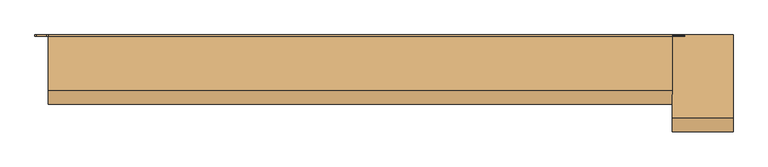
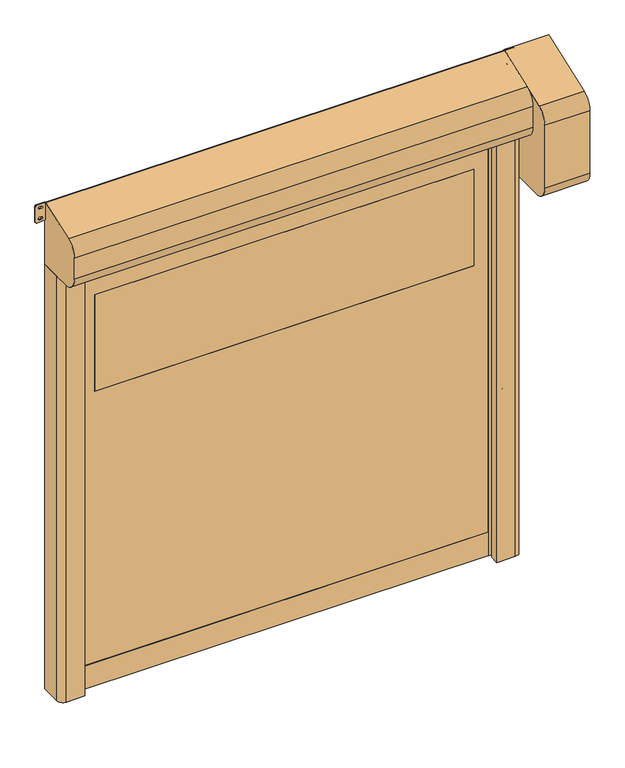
"""IFC4 building model written with IfcOpenShell, lengths in millimetres: door geometry, DO_WPB_Dynadry_BMP : Dynadry."""

from ifc_helpers import new_model, si_unit, point, frame, frame_2d, origin, origin_with_axes, place, context, project, spatial, polyline, circle_curve, trimmed, segment, composite_curve, outline, extrude, source, transform, mapped, element, save


def door_dcf74658(model_context):
    return source(origin(), model_context, "Body", "SweptSolid", [
        extrude(outline(composite_curve([segment(trimmed(circle_curve(frame_2d((1416.6666667, 1084.5)), 6.0), [point((1422.6666667, 1084.5))], [point((1410.6666667, 1084.5))], False, "CARTESIAN"), True, "CONTINUOUS"), segment(polyline([(1410.6666667, 1084.5), (1410.6666667, 1102.5)]), True, "CONTINUOUS"), segment(trimmed(circle_curve(frame_2d((1416.6666667, 1102.5)), 6.0), [point((1410.6666667, 1102.5))], [point((1422.6666667, 1102.5))], False, "CARTESIAN"), True, "CONTINUOUS"), segment(polyline([(1422.6666667, 1102.5), (1422.6666667, 1084.5)]), True, "CONTINUOUS")], self_intersect=False)), frame((0.0, -20.0, 0.0), z_axis=(0.0, 1.0, 0.0), x_axis=(0.0, 0.0, 1.0)), (0.0, 0.0, 1.0), 20.0),
        extrude(outline(composite_curve([segment(trimmed(circle_curve(frame_2d((783.3333333, 1084.5)), 6.0), [point((789.3333333, 1084.5))], [point((777.3333333, 1084.5))], False, "CARTESIAN"), True, "CONTINUOUS"), segment(polyline([(777.3333333, 1084.5), (777.3333333, 1102.5)]), True, "CONTINUOUS"), segment(trimmed(circle_curve(frame_2d((783.3333333, 1102.5)), 6.0), [point((777.3333333, 1102.5))], [point((789.3333333, 1102.5))], False, "CARTESIAN"), True, "CONTINUOUS"), segment(polyline([(789.3333333, 1102.5), (789.3333333, 1084.5)]), True, "CONTINUOUS")], self_intersect=False)), frame((0.0, -20.0, 0.0), z_axis=(0.0, 1.0, 0.0), x_axis=(0.0, 0.0, 1.0)), (0.0, 0.0, 1.0), 20.0),
        extrude(outline(composite_curve([segment(trimmed(circle_curve(frame_2d((2050.0, 1084.5)), 6.0), [point((2056.0, 1084.5))], [point((2044.0, 1084.5))], False, "CARTESIAN"), True, "CONTINUOUS"), segment(polyline([(2044.0, 1084.5), (2044.0, 1102.5)]), True, "CONTINUOUS"), segment(trimmed(circle_curve(frame_2d((2050.0, 1102.5)), 6.0), [point((2044.0, 1102.5))], [point((2056.0, 1102.5))], False, "CARTESIAN"), True, "CONTINUOUS"), segment(polyline([(2056.0, 1102.5), (2056.0, 1084.5)]), True, "CONTINUOUS")], self_intersect=False)), frame((0.0, -20.0, 0.0), z_axis=(0.0, 1.0, 0.0), x_axis=(0.0, 0.0, 1.0)), (0.0, 0.0, 1.0), 20.0),
        extrude(outline(composite_curve([segment(trimmed(circle_curve(frame_2d((150.0, 1084.5)), 6.0), [point((156.0, 1084.5))], [point((144.0, 1084.5))], False, "CARTESIAN"), True, "CONTINUOUS"), segment(polyline([(144.0, 1084.5), (144.0, 1102.5)]), True, "CONTINUOUS"), segment(trimmed(circle_curve(frame_2d((150.0, 1102.5)), 6.0), [point((144.0, 1102.5))], [point((156.0, 1102.5))], False, "CARTESIAN"), True, "CONTINUOUS"), segment(polyline([(156.0, 1102.5), (156.0, 1084.5)]), True, "CONTINUOUS")], self_intersect=False)), frame((0.0, -20.0, 0.0), z_axis=(0.0, 1.0, 0.0), x_axis=(0.0, 0.0, 1.0)), (0.0, 0.0, 1.0), 20.0),
        extrude(outline(composite_curve([segment(polyline([(1422.6666667, -1084.5), (1422.6666667, -1102.5)]), True, "CONTINUOUS"), segment(trimmed(circle_curve(frame_2d((1416.6666667, -1102.5)), 6.0), [point((1422.6666667, -1102.5))], [point((1410.6666667, -1102.5))], False, "CARTESIAN"), True, "CONTINUOUS"), segment(polyline([(1410.6666667, -1102.5), (1410.6666667, -1084.5)]), True, "CONTINUOUS"), segment(trimmed(circle_curve(frame_2d((1416.6666667, -1084.5)), 6.0), [point((1410.6666667, -1084.5))], [point((1422.6666667, -1084.5))], False, "CARTESIAN"), True, "CONTINUOUS")], self_intersect=False)), frame((0.0, -20.0, 0.0), z_axis=(0.0, 1.0, 0.0), x_axis=(0.0, 0.0, 1.0)), (0.0, 0.0, 1.0), 20.0),
        extrude(outline(composite_curve([segment(polyline([(789.3333333, -1084.5), (789.3333333, -1102.5)]), True, "CONTINUOUS"), segment(trimmed(circle_curve(frame_2d((783.3333333, -1102.5)), 6.0), [point((789.3333333, -1102.5))], [point((777.3333333, -1102.5))], False, "CARTESIAN"), True, "CONTINUOUS"), segment(polyline([(777.3333333, -1102.5), (777.3333333, -1084.5)]), True, "CONTINUOUS"), segment(trimmed(circle_curve(frame_2d((783.3333333, -1084.5)), 6.0), [point((777.3333333, -1084.5))], [point((789.3333333, -1084.5))], False, "CARTESIAN"), True, "CONTINUOUS")], self_intersect=False)), frame((0.0, -20.0, 0.0), z_axis=(0.0, 1.0, 0.0), x_axis=(0.0, 0.0, 1.0)), (0.0, 0.0, 1.0), 20.0),
        extrude(outline(composite_curve([segment(polyline([(2056.0, -1084.5), (2056.0, -1102.5)]), True, "CONTINUOUS"), segment(trimmed(circle_curve(frame_2d((2050.0, -1102.5)), 6.0), [point((2056.0, -1102.5))], [point((2044.0, -1102.5))], False, "CARTESIAN"), True, "CONTINUOUS"), segment(polyline([(2044.0, -1102.5), (2044.0, -1084.5)]), True, "CONTINUOUS"), segment(trimmed(circle_curve(frame_2d((2050.0, -1084.5)), 6.0), [point((2044.0, -1084.5))], [point((2056.0, -1084.5))], False, "CARTESIAN"), True, "CONTINUOUS")], self_intersect=False)), frame((0.0, -20.0, 0.0), z_axis=(0.0, 1.0, 0.0), x_axis=(0.0, 0.0, 1.0)), (0.0, 0.0, 1.0), 20.0),
        extrude(outline(composite_curve([segment(polyline([(156.0, -1084.5), (156.0, -1102.5)]), True, "CONTINUOUS"), segment(trimmed(circle_curve(frame_2d((150.0, -1102.5)), 6.0), [point((156.0, -1102.5))], [point((144.0, -1102.5))], False, "CARTESIAN"), True, "CONTINUOUS"), segment(polyline([(144.0, -1102.5), (144.0, -1084.5)]), True, "CONTINUOUS"), segment(trimmed(circle_curve(frame_2d((150.0, -1084.5)), 6.0), [point((144.0, -1084.5))], [point((156.0, -1084.5))], False, "CARTESIAN"), True, "CONTINUOUS")], self_intersect=False)), frame((0.0, -20.0, 0.0), z_axis=(0.0, 1.0, 0.0), x_axis=(0.0, 0.0, 1.0)), (0.0, 0.0, 1.0), 20.0),
        extrude(outline(composite_curve([segment(trimmed(circle_curve(frame_2d((1526.0, 929.0)), 1.0), [point((1525.0, 929.0))], [point((1526.0, 930.0))], False, "CARTESIAN"), True, "CONTINUOUS"), segment(polyline([(1526.0, 930.0), (2024.0, 930.0)]), True, "CONTINUOUS"), segment(trimmed(circle_curve(frame_2d((2024.0, 929.0)), 1.0), [point((2024.0, 930.0))], [point((2025.0, 929.0))], False, "CARTESIAN"), True, "CONTINUOUS"), segment(polyline([(2025.0, 929.0), (2025.0, -929.0)]), True, "CONTINUOUS"), segment(trimmed(circle_curve(frame_2d((2024.0, -929.0)), 1.0), [point((2025.0, -929.0))], [point((2024.0, -930.0))], False, "CARTESIAN"), True, "CONTINUOUS"), segment(polyline([(2024.0, -930.0), (1526.0, -930.0)]), True, "CONTINUOUS"), segment(trimmed(circle_curve(frame_2d((1526.0, -929.0)), 1.0), [point((1526.0, -930.0))], [point((1525.0, -929.0))], False, "CARTESIAN"), True, "CONTINUOUS"), segment(polyline([(1525.0, -929.0), (1525.0, 929.0)]), True, "CONTINUOUS")], self_intersect=False)), frame((0.0, -83.5, 0.0), z_axis=(0.0, 1.0, 0.0), x_axis=(0.0, 0.0, 1.0)), (0.0, 0.0, 1.0), 7.0),
        extrude(outline(polyline([(120.0, -1012.0), (120.0, 1012.0), (2362.5, 1012.0), (2362.5, -1012.0), (120.0, -1012.0)]), holes=[composite_curve([segment(trimmed(circle_curve(frame_2d((1526.0, 929.0)), 1.0), [point((1526.0, 930.0))], [point((1525.0, 929.0))], True, "CARTESIAN"), True, "CONTINUOUS"), segment(polyline([(1525.0, 929.0), (1525.0, -929.0)]), True, "CONTINUOUS"), segment(trimmed(circle_curve(frame_2d((1526.0, -929.0)), 1.0), [point((1525.0, -929.0))], [point((1526.0, -930.0))], True, "CARTESIAN"), True, "CONTINUOUS"), segment(polyline([(1526.0, -930.0), (2024.0, -930.0)]), True, "CONTINUOUS"), segment(trimmed(circle_curve(frame_2d((2024.0, -929.0)), 1.0), [point((2024.0, -930.0))], [point((2025.0, -929.0))], True, "CARTESIAN"), True, "CONTINUOUS"), segment(polyline([(2025.0, -929.0), (2025.0, 929.0)]), True, "CONTINUOUS"), segment(trimmed(circle_curve(frame_2d((2024.0, 929.0)), 1.0), [point((2025.0, 929.0))], [point((2024.0, 930.0))], True, "CARTESIAN"), True, "CONTINUOUS"), segment(polyline([(2024.0, 930.0), (1526.0, 930.0)]), True, "CONTINUOUS")], self_intersect=False)]), frame((0.0, -83.5, 0.0), z_axis=(0.0, 1.0, 0.0), x_axis=(0.0, 0.0, 1.0)), (0.0, 0.0, 1.0), 7.0),
        extrude(outline(polyline([(-1012.0, -74.5), (1012.0, -74.5), (1012.0, -85.5), (-1012.0, -85.5), (-1012.0, -74.5)])), origin_with_axes(), (0.0, 0.0, 1.0), 120.0),
        extrude(outline(composite_curve([segment(polyline([(-1125.0, 0.0), (-1015.0, 0.0), (-1015.0, -64.2857143), (-1035.0, -70.0), (-1000.0, -70.0), (-1000.0, -76.5), (-1020.0, -76.5), (-1020.0, -83.5), (-1000.0, -83.5), (-1000.0, -90.0), (-1035.0, -90.0), (-1035.0, -105.0), (-1005.0, -105.0), (-1005.0, -130.0), (-1095.0, -130.0)]), True, "CONTINUOUS"), segment(trimmed(circle_curve(frame_2d((-1095.0, -100.0)), 30.0), [point((-1095.0, -130.0))], [point((-1125.0, -100.0))], False, "CARTESIAN"), True, "CONTINUOUS"), segment(polyline([(-1125.0, -100.0), (-1125.0, 0.0)]), True, "CONTINUOUS")], self_intersect=False)), origin_with_axes(), (0.0, 0.0, 1.0), 2200.0),
        extrude(outline(composite_curve([segment(polyline([(1125.0, 0.0), (1125.0, -120.0)]), True, "CONTINUOUS"), segment(trimmed(circle_curve(frame_2d((1095.0, -120.0)), 30.0), [point((1125.0, -120.0))], [point((1095.0, -150.0))], False, "CARTESIAN"), True, "CONTINUOUS"), segment(polyline([(1095.0, -150.0), (1005.0, -150.0), (1005.0, -105.0), (1035.0, -105.0), (1035.0, -90.0), (1000.0, -90.0), (1000.0, -83.5), (1020.0, -83.5), (1020.0, -76.5), (1000.0, -76.5), (1000.0, -70.0), (1035.0, -70.0), (1015.0, -64.2857143), (1015.0, 0.0), (1125.0, 0.0)]), True, "CONTINUOUS")], self_intersect=False)), origin_with_axes(), (0.0, 0.0, 1.0), 2200.0),
        extrude(outline(composite_curve([segment(polyline([(0.0, 2525.0), (0.0, 1945.0), (-275.0, 1945.0)]), True, "CONTINUOUS"), segment(trimmed(circle_curve(frame_2d((-275.0, 2020.0)), 75.0), [point((-275.0, 1945.0))], [point((-350.0, 2020.0))], False, "CARTESIAN"), True, "CONTINUOUS"), segment(polyline([(-350.0, 2020.0), (-350.0, 2345.0948526)]), True, "CONTINUOUS"), segment(trimmed(circle_curve(frame_2d((-275.0, 2345.0948526)), 75.0), [point((-350.0, 2345.0948526))], [point((-300.6515107, 2415.5717992))], False, "CARTESIAN"), True, "CONTINUOUS"), segment(polyline([(-300.6515107, 2415.5717992), (0.0, 2525.0)]), True, "CONTINUOUS")], self_intersect=False)), frame((1125.0, 0.0, 0.0), z_axis=(1.0, 0.0, 0.0), x_axis=(0.0, 1.0, 0.0)), (0.0, 0.0, 1.0), 220.0),
        extrude(outline(composite_curve([segment(trimmed(circle_curve(frame_2d((-5.0, 2205.0)), 5.0), [point((0.0, 2205.0))], [point((-5.0, 2200.0))], False, "CARTESIAN"), True, "CONTINUOUS"), segment(polyline([(-5.0, 2200.0), (-175.0, 2200.0)]), True, "CONTINUOUS"), segment(trimmed(circle_curve(frame_2d((-175.0, 2275.0)), 75.0), [point((-175.0, 2200.0))], [point((-250.0, 2275.0))], False, "CARTESIAN"), True, "CONTINUOUS"), segment(polyline([(-250.0, 2275.0), (-250.0, 2383.934153)]), True, "CONTINUOUS"), segment(trimmed(circle_curve(frame_2d((-175.0, 2383.934153)), 75.0), [point((-250.0, 2383.934153))], [point((-200.6515107, 2454.4110996))], False, "CARTESIAN"), True, "CONTINUOUS"), segment(polyline([(-200.6515107, 2454.4110996), (-6.7101007, 2525.0)]), True, "CONTINUOUS"), segment(trimmed(circle_curve(frame_2d((-5.0, 2520.3015369)), 5.0), [point((-6.7101007, 2525.0))], [point((0.0, 2520.3015369))], False, "CARTESIAN"), True, "CONTINUOUS"), segment(polyline([(0.0, 2520.3015369), (0.0, 2205.0)]), True, "CONTINUOUS")], self_intersect=False)), frame((-1125.0, 0.0, 0.0), z_axis=(1.0, 0.0, 0.0), x_axis=(0.0, 1.0, 0.0)), (0.0, 0.0, 1.0), 2250.0),
        extrude(outline(composite_curve([segment(trimmed(circle_curve(frame_2d((2438.75, 1130.75)), 5.75), [point((2438.75, 1125.0))], [point((2433.0, 1130.75))], False, "CARTESIAN"), True, "CONTINUOUS"), segment(polyline([(2433.0, 1130.75), (2433.0, 1168.25)]), True, "CONTINUOUS"), segment(trimmed(circle_curve(frame_2d((2438.75, 1168.25)), 5.75), [point((2433.0, 1168.25))], [point((2438.75, 1174.0))], False, "CARTESIAN"), True, "CONTINUOUS"), segment(polyline([(2438.75, 1174.0), (2519.25, 1174.0)]), True, "CONTINUOUS"), segment(trimmed(circle_curve(frame_2d((2519.25, 1168.25)), 5.75), [point((2519.25, 1174.0))], [point((2525.0, 1168.25))], False, "CARTESIAN"), True, "CONTINUOUS"), segment(polyline([(2525.0, 1168.25), (2525.0, 1130.75)]), True, "CONTINUOUS"), segment(trimmed(circle_curve(frame_2d((2519.25, 1130.75)), 5.75), [point((2525.0, 1130.75))], [point((2519.25, 1125.0))], False, "CARTESIAN"), True, "CONTINUOUS"), segment(polyline([(2519.25, 1125.0), (2438.75, 1125.0)]), True, "CONTINUOUS")], self_intersect=False), holes=[composite_curve([segment(trimmed(circle_curve(frame_2d((2451.5, 1153.75)), 5.75), [point((2457.25, 1153.75))], [point((2445.75, 1153.75))], True, "CARTESIAN"), True, "CONTINUOUS"), segment(polyline([(2445.75, 1153.75), (2445.75, 1145.25)]), True, "CONTINUOUS"), segment(trimmed(circle_curve(frame_2d((2451.5, 1145.25)), 5.75), [point((2445.75, 1145.25))], [point((2457.25, 1145.25))], True, "CARTESIAN"), True, "CONTINUOUS"), segment(polyline([(2457.25, 1145.25), (2457.25, 1153.75)]), True, "CONTINUOUS")], self_intersect=False), composite_curve([segment(trimmed(circle_curve(frame_2d((2506.5, 1153.75)), 5.75), [point((2512.25, 1153.75))], [point((2500.75, 1153.75))], True, "CARTESIAN"), True, "CONTINUOUS"), segment(polyline([(2500.75, 1153.75), (2500.75, 1145.25)]), True, "CONTINUOUS"), segment(trimmed(circle_curve(frame_2d((2506.5, 1145.25)), 5.75), [point((2500.75, 1145.25))], [point((2512.25, 1145.25))], True, "CARTESIAN"), True, "CONTINUOUS"), segment(polyline([(2512.25, 1145.25), (2512.25, 1153.75)]), True, "CONTINUOUS")], self_intersect=False)]), frame((0.0, -5.0, 0.0), z_axis=(0.0, 1.0, 0.0), x_axis=(0.0, 0.0, 1.0)), (0.0, 0.0, 1.0), 5.0),
        extrude(outline(composite_curve([segment(trimmed(circle_curve(frame_2d((2438.75, -1168.25)), 5.75), [point((2438.75, -1174.0))], [point((2433.0, -1168.25))], False, "CARTESIAN"), True, "CONTINUOUS"), segment(polyline([(2433.0, -1168.25), (2433.0, -1130.75)]), True, "CONTINUOUS"), segment(trimmed(circle_curve(frame_2d((2438.75, -1130.75)), 5.75), [point((2433.0, -1130.75))], [point((2438.75, -1125.0))], False, "CARTESIAN"), True, "CONTINUOUS"), segment(polyline([(2438.75, -1125.0), (2519.25, -1125.0)]), True, "CONTINUOUS"), segment(trimmed(circle_curve(frame_2d((2519.25, -1130.75)), 5.75), [point((2519.25, -1125.0))], [point((2525.0, -1130.75))], False, "CARTESIAN"), True, "CONTINUOUS"), segment(polyline([(2525.0, -1130.75), (2525.0, -1168.25)]), True, "CONTINUOUS"), segment(trimmed(circle_curve(frame_2d((2519.25, -1168.25)), 5.75), [point((2525.0, -1168.25))], [point((2519.25, -1174.0))], False, "CARTESIAN"), True, "CONTINUOUS"), segment(polyline([(2519.25, -1174.0), (2438.75, -1174.0)]), True, "CONTINUOUS")], self_intersect=False), holes=[composite_curve([segment(trimmed(circle_curve(frame_2d((2451.5, -1145.25)), 5.75), [point((2457.25, -1145.25))], [point((2445.75, -1145.25))], True, "CARTESIAN"), True, "CONTINUOUS"), segment(polyline([(2445.75, -1145.25), (2445.75, -1153.75)]), True, "CONTINUOUS"), segment(trimmed(circle_curve(frame_2d((2451.5, -1153.75)), 5.75), [point((2445.75, -1153.75))], [point((2457.25, -1153.75))], True, "CARTESIAN"), True, "CONTINUOUS"), segment(polyline([(2457.25, -1153.75), (2457.25, -1145.25)]), True, "CONTINUOUS")], self_intersect=False), composite_curve([segment(trimmed(circle_curve(frame_2d((2506.5, -1145.25)), 5.75), [point((2512.25, -1145.25))], [point((2500.75, -1145.25))], True, "CARTESIAN"), True, "CONTINUOUS"), segment(polyline([(2500.75, -1145.25), (2500.75, -1153.75)]), True, "CONTINUOUS"), segment(trimmed(circle_curve(frame_2d((2506.5, -1153.75)), 5.75), [point((2500.75, -1153.75))], [point((2512.25, -1153.75))], True, "CARTESIAN"), True, "CONTINUOUS"), segment(polyline([(2512.25, -1153.75), (2512.25, -1145.25)]), True, "CONTINUOUS")], self_intersect=False)]), frame((0.0, -5.0, 0.0), z_axis=(0.0, 1.0, 0.0), x_axis=(0.0, 0.0, 1.0)), (0.0, 0.0, 1.0), 5.0),
    ])


if __name__ == "__main__":
    model = new_model("IFC4")
    model_context = context("Model", 3, world=origin())
    ifc_project = project(units=[si_unit("LENGTHUNIT", "METRE", prefix="MILLI")], contexts=[model_context])
    site = spatial("IfcSite", under=ifc_project)
    building = spatial("IfcBuilding", under=site)
    placement = place(None, origin())
    door_shape = door_dcf74658(model_context)
    element("IfcDoor", 1, ObjectType="DO_WPB_Dynadry_BMP : Dynadry", at=placement, inside=building, context=model_context, shape_type="MappedRepresentation", body=[
        mapped(door_shape, transform((0.0, 0.0, 0.0), x_axis=(1.0, 0.0, 0.0), y_axis=(0.0, 1.0, 0.0), z_axis=(0.0, 0.0, 1.0))),
    ])
    save(model, "model.ifc")
